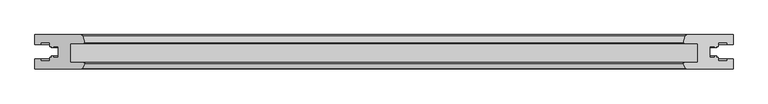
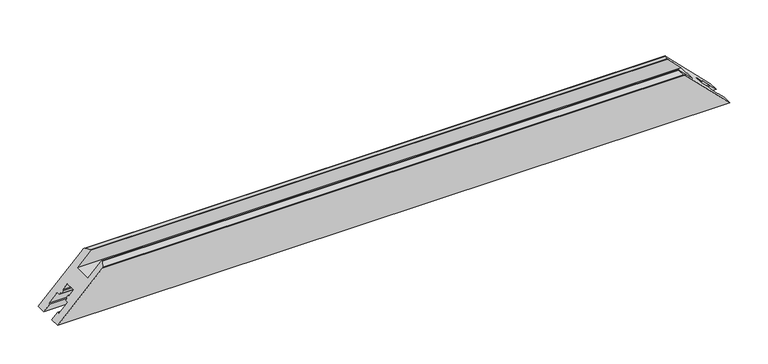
"""IFC4 building model written with IfcOpenShell, lengths in millimetres: proxy geometry, Weiku - Montante - Folha de correr 02.2.01.020 : Weiku - Montante - Folha de correr 02.2.01.020."""

import ifcopenshell
import ifcopenshell.guid

model = None  # the IFC model being written
_history = None  # IfcOwnerHistory: only IFC2X3 demands one
_inside = {}  # id of a spatial element -> (the spatial element, [elements in it])
_under = {}  # id of a project, library or spatial element -> (it, [spatial elements below it])
_declared = {}  # id of a project -> (the project, [libraries it declares])
_typed = {}  # id of a type object -> (the type object, [elements of that type])
_made_of = {}  # id of a material, layer set ... -> (it, [elements and type objects made of it])


def new_model(schema):
    """Start an empty IFC model of exactly this schema.

    Asked for "IFC4X3", IfcOpenShell would pick the latest addendum, in which some entities
    have other attributes; the version numbers below select the first issue.
    IFC2X3 requires an IfcOwnerHistory on every rooted entity: one is made here for all.
    """
    global model, _history
    if schema == "IFC4X3":
        model = ifcopenshell.file(schema_version=(4, 3, 0, 0))
    else:
        model = ifcopenshell.file(schema=schema)
    _inside.clear()
    _under.clear()
    _declared.clear()
    _typed.clear()
    _made_of.clear()
    _history = None
    if model.schema == "IFC2X3":
        org = make("IfcOrganization", Name="unknown")
        user = make(
            "IfcPersonAndOrganization",
            ThePerson=make("IfcPerson", FamilyName="unknown"),
            TheOrganization=org,
        )
        app = make(
            "IfcApplication",
            ApplicationDeveloper=org,
            Version="unknown",
            ApplicationFullName="unknown",
            ApplicationIdentifier="unknown",
        )
        _history = make(
            "IfcOwnerHistory",
            OwningUser=user,
            OwningApplication=app,
            ChangeAction="ADDED",
            CreationDate=0,
        )
    return model


def make(cls, **values):
    """One entity of the class cls with the attributes given. An attribute that is None is left unset."""
    return model.create_entity(
        cls, **{name: value for name, value in values.items() if value is not None}
    )


def rooted(cls, **values):
    """An entity with a GlobalId (a new one), such as an element, a storey or a relation."""
    return make(cls, GlobalId=ifcopenshell.guid.new(), OwnerHistory=_history, **values)


def si_unit(unit_type, name, prefix=None):
    """IfcSIUnit, for example si_unit("LENGTHUNIT", "METRE", prefix="MILLI")."""
    return make("IfcSIUnit", UnitType=unit_type, Prefix=prefix, Name=name)


def assignment(units):
    """IfcUnitAssignment: the units of a project."""
    return None if units is None else make("IfcUnitAssignment", Units=units)


def point(xyz):
    """IfcCartesianPoint."""
    return None if xyz is None else make("IfcCartesianPoint", Coordinates=xyz)


def direction(xyz):
    """IfcDirection."""
    return None if xyz is None else make("IfcDirection", DirectionRatios=xyz)


def frame(location, z_axis=None, x_axis=None):
    """IfcAxis2Placement3D, a coordinate frame: its origin and axes. An axis left out is left unset."""
    return make(
        "IfcAxis2Placement3D",
        Location=point(location),
        Axis=direction(z_axis),
        RefDirection=direction(x_axis),
    )


def origin():
    """The frame at (0, 0, 0) with its axes left unset."""
    return frame((0.0, 0.0, 0.0))


def place(relative_to, where):
    """IfcLocalPlacement: puts the frame where relative to a parent placement (None: the world)."""
    return make(
        "IfcLocalPlacement", PlacementRelTo=relative_to, RelativePlacement=where
    )


def context(
    kind, dimensions, precision=None, world=None, true_north=None, identifier=None
):
    """IfcGeometricRepresentationContext, for example the 3D "Model" context."""
    return make(
        "IfcGeometricRepresentationContext",
        ContextIdentifier=identifier,
        ContextType=kind,
        CoordinateSpaceDimension=dimensions,
        Precision=precision,
        WorldCoordinateSystem=world,
        TrueNorth=true_north,
    )


def project(units=None, contexts=None):
    """IfcProject with its units and contexts."""
    return rooted(
        "IfcProject",
        Name="project",
        RepresentationContexts=contexts,
        UnitsInContext=assignment(units),
    )


def spatial(cls, under=None, at=None, **own):
    """A site, building, storey or space (cls), placed at a placement, below another one or the project."""
    s = rooted(cls, ObjectPlacement=at, **own)
    if under is not None:
        _under.setdefault(under.id(), (under, []))[1].append(s)
    return s


def ellipse_curve(where, semi_axis1, semi_axis2):
    """IfcEllipse in the frame where."""
    return make(
        "IfcEllipse", Position=where, SemiAxis1=semi_axis1, SemiAxis2=semi_axis2
    )


def shape(context_of_items, identifier, shape_type, items):
    """IfcShapeRepresentation: the items that make up one representation, for example the "Body"."""
    return make(
        "IfcShapeRepresentation",
        ContextOfItems=context_of_items,
        RepresentationIdentifier=identifier,
        RepresentationType=shape_type,
        Items=items,
    )


def source(mapping_origin, context_of_items, identifier, shape_type, items):
    """IfcRepresentationMap: a shape defined once, which mapped items show again and again."""
    return make(
        "IfcRepresentationMap",
        MappingOrigin=mapping_origin,
        MappedRepresentation=shape(context_of_items, identifier, shape_type, items),
    )


def transform(
    local_origin,
    x_axis=None,
    y_axis=None,
    z_axis=None,
    scale=None,
    scale2=None,
    scale3=None,
    uniform=True,
):
    """IfcCartesianTransformationOperator3D, or its non-uniform kind. x_axis, y_axis, z_axis: its Axis1, 2, 3."""
    if uniform:
        return make(
            "IfcCartesianTransformationOperator3D",
            Axis1=direction(x_axis),
            Axis2=direction(y_axis),
            LocalOrigin=point(local_origin),
            Scale=scale,
            Axis3=direction(z_axis),
        )
    return make(
        "IfcCartesianTransformationOperator3DnonUniform",
        Axis1=direction(x_axis),
        Axis2=direction(y_axis),
        LocalOrigin=point(local_origin),
        Scale=scale,
        Axis3=direction(z_axis),
        Scale2=scale2,
        Scale3=scale3,
    )


def mapped(mapping_source, mapping_target):
    """IfcMappedItem: shows the shape of a source again, moved by a transform."""
    return make(
        "IfcMappedItem", MappingSource=mapping_source, MappingTarget=mapping_target
    )


def made_of(thing, what):
    """Note that an element or type object is made of a material, layer set ...; save() writes the relation."""
    if what is not None:
        _made_of.setdefault(what.id(), (what, []))[1].append(thing)
    return thing


def element(
    cls,
    number,
    at=None,
    inside=None,
    cuts=None,
    type_object=None,
    material=None,
    context=None,
    identifier="Body",
    shape_type=None,
    held_by="IfcProductDefinitionShape",
    body=None,
    shapes=None,
    **own,
):
    """One element of the class cls, such as IfcWall. Its Tag is "e" and its number.

    at: its placement. inside: the storey or other place that contains it. cuts: it is an
    opening in that element (IfcRelVoidsElement). A single representation is given by context,
    identifier, shape_type and body (its items); several are given by shapes. held_by: the class
    of the entity that holds the representations. save() writes the other relations.
    """
    e = rooted(cls, Tag="e%d" % number, ObjectPlacement=at, **own)
    if body is not None:
        shapes = [shape(context, identifier, shape_type, body)]
    if shapes is not None:
        e.Representation = make(held_by, Representations=shapes)
    if inside is not None:
        _inside.setdefault(inside.id(), (inside, []))[1].append(e)
    if cuts is not None:
        rooted(
            "IfcRelVoidsElement", RelatingBuildingElement=cuts, RelatedOpeningElement=e
        )
    if type_object is not None:
        _typed.setdefault(type_object.id(), (type_object, []))[1].append(e)
    return made_of(e, material)


def aggregate(whole, parts):
    """IfcRelAggregates: a whole, such as a stair, and the parts it consists of."""
    return rooted("IfcRelAggregates", RelatingObject=whole, RelatedObjects=parts)


def save(model, path):
    """Write the relations noted so far, then the file.

    IfcRelAggregates (storeys below a building ...), IfcRelContainedInSpatialStructure (elements
    in a storey), IfcRelDefinesByType, IfcRelAssociatesMaterial and IfcRelDeclares: one each for
    every whole, place, type object, material and project.
    """
    for whole, parts in _under.values():
        aggregate(whole, parts)
    for where, things in _inside.values():
        rooted(
            "IfcRelContainedInSpatialStructure",
            RelatedElements=things,
            RelatingStructure=where,
        )
    for kind, things in _typed.values():
        rooted("IfcRelDefinesByType", RelatedObjects=things, RelatingType=kind)
    for what, things in _made_of.values():
        rooted("IfcRelAssociatesMaterial", RelatedObjects=things, RelatingMaterial=what)
    for by, libraries in _declared.values():
        rooted("IfcRelDeclares", RelatingContext=by, RelatedDefinitions=libraries)
    model.write(path)


def plane_surface(at):
    """IfcPlane: the flat surface through the origin of the frame at, square to its z axis."""
    return make("IfcPlane", Position=at)


def cylinder_surface(at, radius):
    """IfcCylindricalSurface: all points at the distance radius from the z axis of the frame at."""
    return make("IfcCylindricalSurface", Position=at, Radius=radius)


def advanced_brep(points, edges, surfaces, faces):
    """IfcAdvancedBrep: a solid bounded by faces that lie on surfaces and meet in shared edges.

    An edge is (start, end): straight between two places in points (the first is 0);
    or (start, end, curve); or (start, end, curve, False) where it runs against its curve.
    A face is (place in surfaces, loops), or (place, loops, False) where it looks against
    its surface's normal. A loop lists edges by number (the first is 1), with a minus sign
    where the edge is run from its end to its start. The first loop is the outer one.
    """
    corners = [point(p) for p in points]
    vertices = [make("IfcVertexPoint", VertexGeometry=c) for c in corners]
    made = []
    for start, end, *more in edges:
        made.append(
            make(
                "IfcEdgeCurve",
                EdgeStart=vertices[start],
                EdgeEnd=vertices[end],
                EdgeGeometry=more[0] if more else make("IfcPolyline", Points=[corners[start], corners[end]]),
                SameSense=more[1] if len(more) > 1 else True,
            )
        )
    hull = []
    for where, loops, *sense in faces:
        bounds = []
        for j, loop in enumerate(loops):
            ring = [make("IfcOrientedEdge", EdgeElement=made[abs(k) - 1], Orientation=k > 0) for k in loop]
            bounds.append(
                make(
                    "IfcFaceOuterBound" if j == 0 else "IfcFaceBound",
                    Bound=make("IfcEdgeLoop", EdgeList=ring),
                    Orientation=True,
                )
            )
        hull.append(make("IfcAdvancedFace", Bounds=bounds, FaceSurface=surfaces[where], SameSense=sense[0] if sense else True))
    return make("IfcAdvancedBrep", Outer=make("IfcClosedShell", CfsFaces=hull))


def generic_models_b6752da2(model_context):
    return source(origin(), model_context, "Body", "AdvancedBrep", [
        advanced_brep(
        [(505.75, 50.0, 0.0), (-505.75, 50.0, 0.0), (-439.2504942, 50.0, 66.4995058), (439.2504942, 50.0, 66.4995058), (505.75, 35.5, 0.0), (-505.75, 35.5, 0.0), (-505.75, 0.0, 0.0), (505.75, 0.0, 0.0), (438.2379875, 0.0, 67.5120125), (-438.2379875, 0.0, 67.5120125), (-497.15, 35.5, 8.6), (-497.15, 38.3, 8.6), (-483.95, 38.3, 21.8), (-483.95, 33.1, 21.8), (-481.6024152, 33.1, 24.1475848), (-481.7773926, 31.1, 23.9726074), (-478.95, 31.1, 26.8), (-478.95, 33.1, 26.8), (-471.75, 33.1, 34.0), (-471.75, 16.9, 34.0), (-478.95, 16.9, 26.8), (-478.95, 18.9, 26.8), (-481.7773926, 18.9, 23.9726074), (-481.6024152, 16.9, 24.1475848), (-483.95, 16.9, 21.8), (-483.95, 11.7, 21.8), (-497.15, 11.7, 8.6), (-497.15, 14.5, 8.6), (-505.75, 14.5, 0.0), (-437.3440268, 0.5518546, 68.4059732), (-433.8020406, 7.617411, 71.9479594), (-434.9641895, 9.5, 70.7858105), (-454.7507611, 9.5, 50.9992389), (-454.7507611, 37.5, 50.9992389), (-434.2507611, 37.5, 71.4992389), (-433.7677981, 38.1294095, 71.9822019), (-436.3527168, 47.7764571, 69.3972832), (436.3527168, 47.7764571, 69.3972832), (433.7677981, 38.1294095, 71.9822019), (434.2507611, 37.5, 71.4992389), (454.7507611, 37.5, 50.9992389), (454.7507611, 9.5, 50.9992389), (434.9641895, 9.5, 70.7858105), (433.8020406, 7.617411, 71.9479594), (437.3440268, 0.5518546, 68.4059732), (505.75, 14.5, 0.0), (497.15, 14.5, 8.6), (497.15, 11.7, 8.6), (483.95, 11.7, 21.8), (483.95, 16.9, 21.8), (481.6024152, 16.9, 24.1475848), (481.7773926, 18.9, 23.9726074), (478.95, 18.9, 26.8), (478.95, 16.9, 26.8), (471.75, 16.9, 34.0), (471.75, 33.1, 34.0), (478.95, 33.1, 26.8), (478.95, 31.1, 26.8), (481.7773926, 31.1, 23.9726074), (481.6024152, 33.1, 24.1475848), (483.95, 33.1, 21.8), (483.95, 38.3, 21.8), (497.15, 38.3, 8.6), (497.15, 35.5, 8.6)],
        [
            (0, 1),
            (1, 2),
            (2, 3),
            (3, 0),
            (0, 4),
            (4, 5),
            (5, 1),
            (6, 7),
            (7, 8),
            (8, 9),
            (9, 6),
            (5, 10),
            (10, 11),
            (11, 12),
            (12, 13),
            (13, 14),
            (14, 15),
            (15, 16),
            (16, 17),
            (17, 18),
            (18, 19),
            (19, 20),
            (20, 21),
            (21, 22),
            (22, 23),
            (23, 24),
            (24, 25),
            (25, 26),
            (26, 27),
            (27, 28),
            (28, 6),
            (9, 29, ellipse_curve(frame((-438.2379875, 1.0, 67.5120125), z_axis=(-0.7071067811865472, 0.0, 0.7071067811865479), x_axis=(-0.7071067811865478, 0.0, -0.7071067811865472)), 1.4142136, 1.0)),
            (29, 30),
            (30, 31, ellipse_curve(frame((-434.9641895, 8.2, 70.7858105), z_axis=(-0.7071067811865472, 0.0, 0.7071067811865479), x_axis=(-0.7071067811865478, 0.0, -0.7071067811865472)), 1.8384776, 1.3)),
            (31, 32),
            (32, 33),
            (33, 34),
            (34, 35, ellipse_curve(frame((-434.2507611, 38.0, 71.4992389), z_axis=(-0.7071067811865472, 0.0, 0.7071067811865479), x_axis=(-0.7071067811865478, 0.0, -0.7071067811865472)), 0.7071068, 0.5)),
            (35, 36),
            (36, 2, ellipse_curve(frame((-439.2504942, 47.0, 66.4995058), z_axis=(-0.7071067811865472, 0.0, 0.7071067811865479), x_axis=(-0.7071067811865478, 0.0, -0.7071067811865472)), 4.2426407, 3.0)),
            (3, 37, ellipse_curve(frame((439.2504942, 47.0, 66.4995058), z_axis=(0.7071067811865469, 0.0, 0.7071067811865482), x_axis=(-0.707106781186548, 0.0, 0.7071067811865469)), 4.2426407, 3.0)),
            (37, 38),
            (38, 39, ellipse_curve(frame((434.2507611, 38.0, 71.4992389), z_axis=(0.7071067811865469, 0.0, 0.7071067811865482), x_axis=(-0.707106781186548, 0.0, 0.7071067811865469)), 0.7071068, 0.5)),
            (39, 40),
            (40, 41),
            (41, 42),
            (42, 43, ellipse_curve(frame((434.9641895, 8.2, 70.7858105), z_axis=(0.7071067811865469, 0.0, 0.7071067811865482), x_axis=(-0.707106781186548, 0.0, 0.7071067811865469)), 1.8384776, 1.3)),
            (43, 44),
            (44, 8, ellipse_curve(frame((438.2379875, 1.0, 67.5120125), z_axis=(0.7071067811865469, 0.0, 0.7071067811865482), x_axis=(-0.707106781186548, 0.0, 0.7071067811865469)), 1.4142136, 1.0)),
            (7, 45),
            (45, 46),
            (46, 47),
            (47, 48),
            (48, 49),
            (49, 50),
            (50, 51),
            (51, 52),
            (52, 53),
            (53, 54),
            (54, 55),
            (55, 56),
            (56, 57),
            (57, 58),
            (58, 59),
            (59, 60),
            (60, 61),
            (61, 62),
            (62, 63),
            (63, 4),
            (44, 29),
            (43, 30),
            (42, 31),
            (41, 32),
            (40, 33),
            (39, 34),
            (38, 35),
            (37, 36),
            (63, 10),
            (62, 11),
            (61, 12),
            (60, 13),
            (59, 14),
            (58, 15),
            (57, 16),
            (56, 17),
            (55, 18),
            (54, 19),
            (53, 20),
            (52, 21),
            (51, 22),
            (50, 23),
            (49, 24),
            (48, 25),
            (47, 26),
            (46, 27),
            (45, 28),
        ],
        [
            plane_surface(frame((-505.75, 50.0, 66.4995058), z_axis=(0.0, 1.0, 0.0), x_axis=(1.0, 0.0, 0.0))),
            plane_surface(frame((-505.75, 50.0, 0.0), z_axis=(0.0, 0.0, -1.0), x_axis=(1.0, 0.0, 0.0))),
            plane_surface(frame((-505.75, 0.0, 0.0), z_axis=(0.0, -1.0, 0.0), x_axis=(1.0, 0.0, 0.0))),
            plane_surface(frame((-534.0342712, 0.0, -28.2842712), z_axis=(-0.7071067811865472, 0.0, 0.7071067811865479), x_axis=(0.0, 1.0, 0.0))),
            plane_surface(frame((425.75, 0.0, 80.0), z_axis=(0.7071067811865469, 0.0, 0.7071067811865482), x_axis=(0.0, 1.0, 0.0))),
            cylinder_surface(frame((-505.75, 1.0, 67.5120125), z_axis=(-1.0, 0.0, 0.0), x_axis=(0.0, 1.0, 0.0)), 1.0),
            plane_surface(frame((-505.75, 0.5518546, 68.4059732), z_axis=(0.0, -0.4481453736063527, 0.8939606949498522), x_axis=(1.0, 0.0, 0.0))),
            cylinder_surface(frame((-505.75, 8.2, 70.7858105), z_axis=(-1.0, 0.0, 0.0), x_axis=(0.0, 1.0, 0.0)), 1.3),
            plane_surface(frame((-505.75, 9.5, 70.7858105), z_axis=(0.0, 1.0, 0.0), x_axis=(1.0, 0.0, 0.0))),
            plane_surface(frame((-505.75, 9.5, 50.9992389), z_axis=(0.0, 0.0, 1.0), x_axis=(1.0, 0.0, 0.0))),
            plane_surface(frame((-505.75, 37.5, 50.9992389), z_axis=(0.0, -1.0, 0.0), x_axis=(1.0, 0.0, 0.0))),
            cylinder_surface(frame((-505.75, 38.0, 71.4992389), z_axis=(-1.0, 0.0, 0.0), x_axis=(0.0, 1.0, 0.0)), 0.5),
            plane_surface(frame((-505.75, 38.1294095, 71.9822019), z_axis=(0.0, 0.2588190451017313, 0.9659258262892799), x_axis=(1.0, 0.0, 0.0))),
            cylinder_surface(frame((-505.75, 47.0, 66.4995058), z_axis=(-1.0, 0.0, 0.0), x_axis=(0.0, 1.0, 0.0)), 3.0),
            plane_surface(frame((-505.75, 35.5, 0.0), z_axis=(0.0, -1.0, 0.0), x_axis=(1.0, 0.0, 0.0))),
            plane_surface(frame((-505.75, 35.5, 8.6), z_axis=(0.0, 0.0, 1.0), x_axis=(1.0, 0.0, 0.0))),
            plane_surface(frame((-505.75, 38.3, 8.6), z_axis=(0.0, -1.0, 0.0), x_axis=(1.0, 0.0, 0.0))),
            plane_surface(frame((-505.75, 38.3, 21.8), z_axis=(0.0, 0.0, -1.0), x_axis=(1.0, 0.0, 0.0))),
            plane_surface(frame((-505.75, 33.1, 21.8), z_axis=(0.0, -1.0, 0.0), x_axis=(1.0, 0.0, 0.0))),
            plane_surface(frame((-505.75, 33.1, 24.1475848), z_axis=(0.0, 0.08715574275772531, -0.9961946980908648), x_axis=(1.0, 0.0, 0.0))),
            plane_surface(frame((-505.75, 31.1, 23.9726074), z_axis=(0.0, -1.0, 0.0), x_axis=(1.0, 0.0, 0.0))),
            plane_surface(frame((-505.75, 31.1, 26.8), z_axis=(0.0, 0.0, 1.0), x_axis=(1.0, 0.0, 0.0))),
            plane_surface(frame((-505.75, 33.1, 26.8), z_axis=(0.0, -1.0, 0.0), x_axis=(1.0, 0.0, 0.0))),
            plane_surface(frame((-505.75, 33.1, 34.0), z_axis=(0.0, 0.0, -1.0), x_axis=(1.0, 0.0, 0.0))),
            plane_surface(frame((-505.75, 16.9, 34.0), z_axis=(0.0, 1.0, 0.0), x_axis=(1.0, 0.0, 0.0))),
            plane_surface(frame((-505.75, 16.9, 26.8), z_axis=(0.0, 0.0, 1.0), x_axis=(1.0, 0.0, 0.0))),
            plane_surface(frame((-505.75, 18.9, 26.8), z_axis=(0.0, 1.0, 0.0), x_axis=(1.0, 0.0, 0.0))),
            plane_surface(frame((-505.75, 18.9, 23.9726074), z_axis=(0.0, -0.08715574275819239, -0.9961946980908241), x_axis=(1.0, 0.0, 0.0))),
            plane_surface(frame((-505.75, 16.9, 24.1475848), z_axis=(0.0, 1.0, 0.0), x_axis=(1.0, 0.0, 0.0))),
            plane_surface(frame((-505.75, 16.9, 21.8), z_axis=(0.0, 0.0, -1.0), x_axis=(1.0, 0.0, 0.0))),
            plane_surface(frame((-505.75, 11.7, 21.8), z_axis=(0.0, 1.0, 0.0), x_axis=(1.0, 0.0, 0.0))),
            plane_surface(frame((-505.75, 11.7, 8.6), z_axis=(0.0, 0.0, 1.0), x_axis=(1.0, 0.0, 0.0))),
            plane_surface(frame((-505.75, 14.5, 8.6), z_axis=(0.0, 1.0, 0.0), x_axis=(1.0, 0.0, 0.0))),
            plane_surface(frame((-505.75, 14.5, 0.0), z_axis=(0.0, 0.0, -1.0), x_axis=(1.0, 0.0, 0.0))),
        ],
        [
            (0, [[1, 2, 3, 4]]),
            (1, [[-1, 5, 6, 7]]),
            (2, [[8, 9, 10, 11]]),
            (3, [[-2, -7, 12, 13, 14, 15, 16, 17, 18, 19, 20, 21, 22, 23, 24, 25, 26, 27, 28, 29, 30, 31, -11, 32, 33, 34, 35, 36, 37, 38, 39, 40]]),
            (4, [[-4, 41, 42, 43, 44, 45, 46, 47, 48, 49, -9, 50, 51, 52, 53, 54, 55, 56, 57, 58, 59, 60, 61, 62, 63, 64, 65, 66, 67, 68, 69, -5]]),
            (5, [[-32, -10, -49, 70]]),
            (6, [[-33, -70, -48, 71]]),
            (7, [[-34, -71, -47, 72]]),
            (8, [[-35, -72, -46, 73]]),
            (9, [[-36, -73, -45, 74]]),
            (10, [[-37, -74, -44, 75]]),
            (11, [[-38, -75, -43, 76]]),
            (12, [[-39, -76, -42, 77]]),
            (13, [[-40, -77, -41, -3]]),
            (14, [[-6, -69, 78, -12]]),
            (15, [[-13, -78, -68, 79]]),
            (16, [[-14, -79, -67, 80]]),
            (17, [[-15, -80, -66, 81]]),
            (18, [[-16, -81, -65, 82]]),
            (19, [[-17, -82, -64, 83]]),
            (20, [[-18, -83, -63, 84]]),
            (21, [[-19, -84, -62, 85]]),
            (22, [[-20, -85, -61, 86]]),
            (23, [[-21, -86, -60, 87]]),
            (24, [[-22, -87, -59, 88]]),
            (25, [[-23, -88, -58, 89]]),
            (26, [[-24, -89, -57, 90]]),
            (27, [[-25, -90, -56, 91]]),
            (28, [[-26, -91, -55, 92]]),
            (29, [[-27, -92, -54, 93]]),
            (30, [[-28, -93, -53, 94]]),
            (31, [[-29, -94, -52, 95]]),
            (32, [[96, -30, -95, -51]]),
            (33, [[-8, -31, -96, -50]]),
        ],
    ),
    ])


if __name__ == "__main__":
    model = new_model("IFC4")
    model_context = context("Model", 3, world=origin())
    ifc_project = project(units=[si_unit("LENGTHUNIT", "METRE", prefix="MILLI")], contexts=[model_context])
    site = spatial("IfcSite", under=ifc_project)
    building = spatial("IfcBuilding", under=site)
    placement = place(None, origin())
    generic_models_shape = generic_models_b6752da2(model_context)
    element("IfcBuildingElementProxy", 1, Name="Weiku - Montante - Folha de correr 02.2.01.020 : Weiku - Montante - Folha de correr 02.2.01.020", ObjectType="Weiku - Montante - Folha de correr 02.2.01.020 : Weiku - Montante - Folha de correr 02.2.01.020", at=placement, inside=building, context=model_context, shape_type="MappedRepresentation", body=[
        mapped(generic_models_shape, transform((0.0, 0.0, 0.0), x_axis=(1.0, 0.0, 0.0), y_axis=(0.0, 1.0, 0.0), z_axis=(0.0, 0.0, 1.0))),
    ])
    save(model, "model.ifc")
